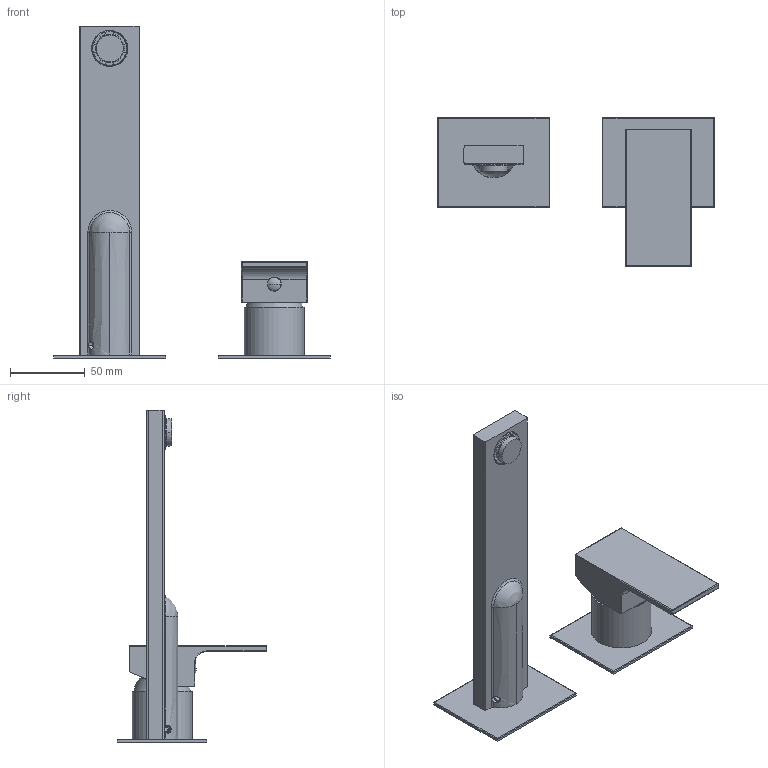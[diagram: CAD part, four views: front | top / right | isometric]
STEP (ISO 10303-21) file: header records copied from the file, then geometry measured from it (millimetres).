
FILE_DESCRIPTION((''),'2;1');
FILE_NAME('35547A_SW0001','2026-02-03T15:02:23',('carloff'),(''),'CREO PARAMETRIC BY PTC INC, 2022014','CREO PARAMETRIC BY PTC INC, 2022014','');
FILE_SCHEMA(('CONFIG_CONTROL_DESIGN'));
Products named in the file (1): 35547A_SW0001
Bounding box: 185 x 100 x 222 mm (x, y, z)
Volume: 180719.1 mm3; surface area: 98264.3 mm2
Topology: 4 solids, 4 shells, 914 faces, 2587 edges, 1684 vertices
Faces by surface type: cylinder 339, plane 326, torus 94, cone 74, bspline 63, sphere 18
Entity records: 60151 total; most frequent: CARTESIAN_POINT 36827, ORIENTED_EDGE 5156, DIRECTION 4625, EDGE_CURVE 2578, AXIS2_PLACEMENT_3D 1738, VERTEX_POINT 1684, VECTOR 1149, LINE 1149
